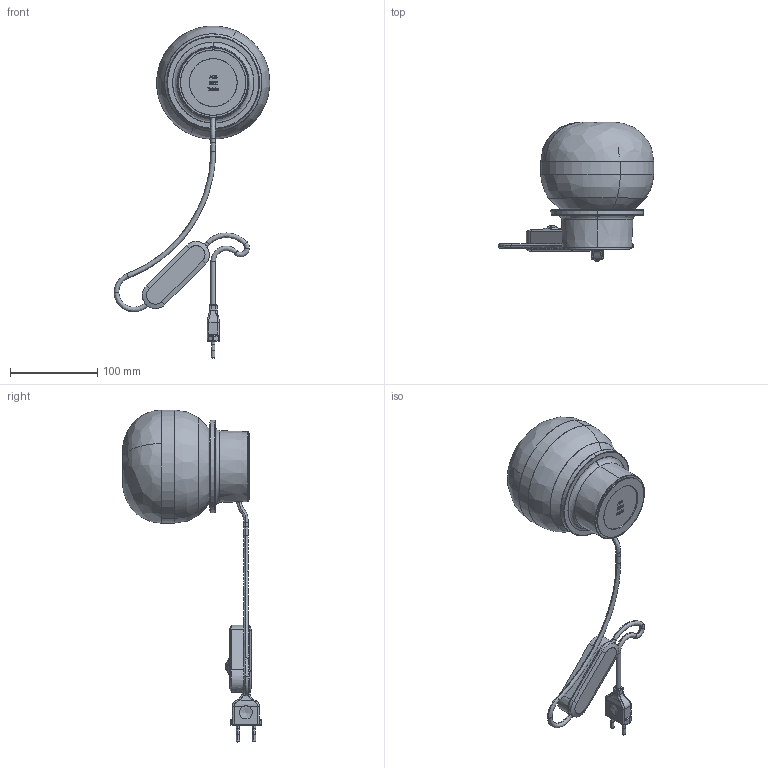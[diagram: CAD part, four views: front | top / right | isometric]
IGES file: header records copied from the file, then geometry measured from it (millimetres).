
Start section: SolidWorks IGES file using analytic representation for surfaces
Global section: file name: G:\Drive condivisi\Ufficio Tecnico\Prodotti\A08 Lille\Progetto\A08-T1\3D Step\Lille Table.IGS; native system: SolidWorks 2024; preprocessor: SolidWorks 2024; author: Tecnico01; date: 250605.092348; units: millimetre
Bounding box: 178.68 x 159.58 x 381.37 mm (x, y, z)
Surface area: 170144 mm2 (no closed solid volume)
Topology: 0 solids, 0 shells, 433 faces, 5956 edges, 5952 vertices
Faces by surface type: bspline 312, revolution 121
